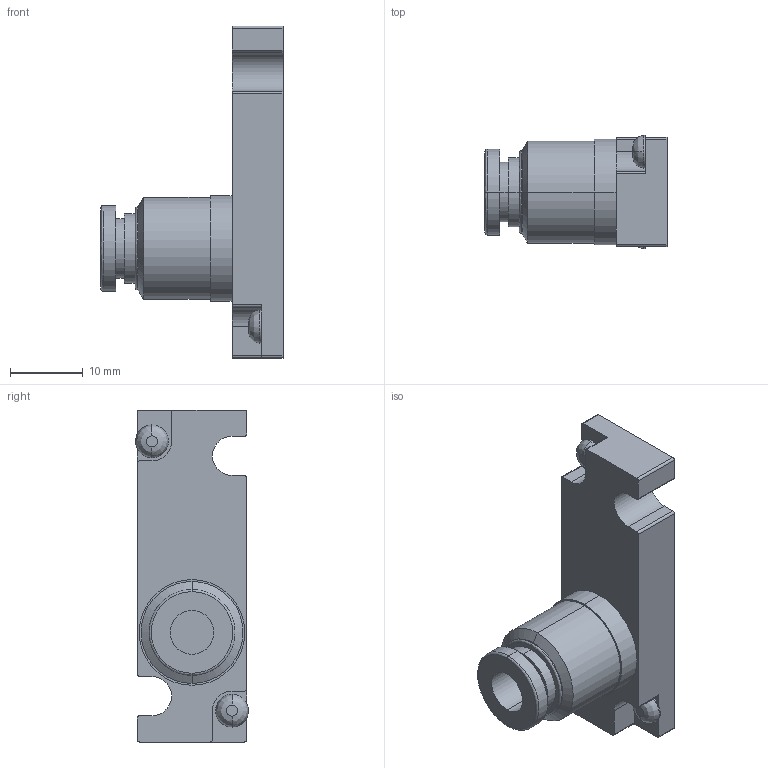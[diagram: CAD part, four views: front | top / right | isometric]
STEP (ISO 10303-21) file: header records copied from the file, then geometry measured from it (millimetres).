
FILE_DESCRIPTION( (''), '2;1');
FILE_NAME ('CVICAD02.6608.F15_Port-FJ5B_22644.stp','2021-07-12T19:18:39',(''),(''),'spGate 12.6.6','','');
FILE_SCHEMA (('AUTOMOTIVE_DESIGN'));
Length unit declared in the file: millimetre
Bounding box: 25 x 15.5 x 45.6 mm (x, y, z)
Volume: 6270.9 mm3; surface area: 3335.7 mm2
Topology: 1 solids, 1 shells, 72 faces, 176 edges, 112 vertices
Faces by surface type: cylinder 34, plane 28, bspline 10
Entity records: 3737 total; most frequent: CARTESIAN_POINT 616, DIRECTION 352, ORIENTED_EDGE 352, COLOUR_RGB 249, PRESENTATION_STYLE_ASSIGNMENT 249, STYLED_ITEM 249, EDGE_CURVE 176, DRAUGHTING_PRE_DEFINED_CURVE_FONT 176
